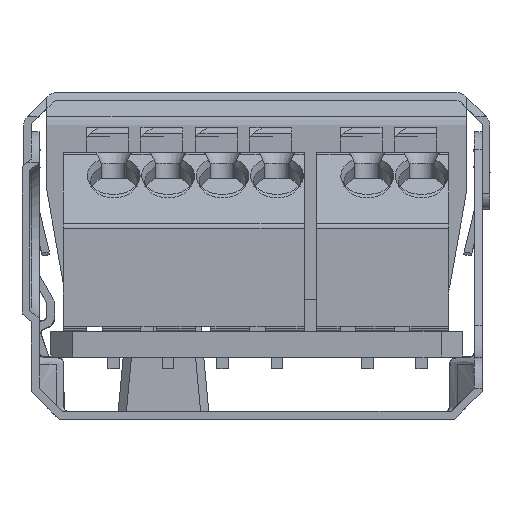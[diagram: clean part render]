
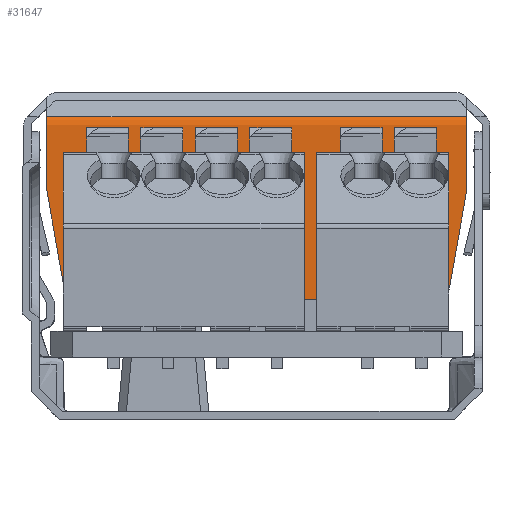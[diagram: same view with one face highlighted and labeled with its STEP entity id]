
A CAD part, left-side view. The second image highlights one B-rep face of the part: STEP entity #31647.
In plain terms, the highlighted free-form (B-spline) face has degree [1, 2] with [2, 5] control points.
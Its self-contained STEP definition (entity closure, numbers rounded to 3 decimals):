
#103 = ORIENTED_EDGE ( 'NONE', *, *, #26508, .T. ) ;
#121 = EDGE_CURVE ( 'NONE', #6695, #3213, #11414, .T. ) ;
#135 = ORIENTED_EDGE ( 'NONE', *, *, #4070, .F. ) ;
#957 = ORIENTED_EDGE ( 'NONE', *, *, #23600, .T. ) ;
#1060 = EDGE_CURVE ( 'NONE', #19073, #6695, #1975, .T. ) ;
#1365 = CARTESIAN_POINT ( 'NONE',  ( -158.504, 15.541, 358.392 ) ) ;
#1975 = CIRCLE ( 'NONE', #8914, 1. ) ;
#1995 = CARTESIAN_POINT ( 'NONE',  ( -158.504, -9.385, 362.98 ) ) ;
#2173 = CARTESIAN_POINT ( 'NONE',  ( -158.504, 17.615, 368.568 ) ) ;
#3213 = VERTEX_POINT ( 'NONE', #34039 ) ;
#3721 = CARTESIAN_POINT ( 'NONE',  ( -158.504, 17.615, 364.392 ) ) ;
#3761 = CARTESIAN_POINT ( 'NONE',  ( -158.504, -9.385, 364.392 ) ) ;
#4070 = EDGE_CURVE ( 'NONE', #29926, #17373, #31348, .T. ) ;
#5095 = ORIENTED_EDGE ( 'NONE', *, *, #15871, .T. ) ;
#5241 = CARTESIAN_POINT ( 'NONE',  ( -158.504, -9.385, 357.392 ) ) ;
#5879 = CARTESIAN_POINT ( 'NONE',  ( -158.504, 16.526, 358.218 ) ) ;
#6695 = VERTEX_POINT ( 'NONE', #20133 ) ;
#7252 = CARTESIAN_POINT ( 'NONE',  ( -158.504, 16.526, 358.218 ) ) ;
#7694 = VECTOR ( 'NONE', #33468, 1000. ) ;
#7796 = CARTESIAN_POINT ( 'NONE',  ( -158.504, -9.385, 368.899 ) ) ;
#8914 = AXIS2_PLACEMENT_3D ( 'NONE', #1365, #12404, #10043 ) ;
#9692 = CARTESIAN_POINT ( 'NONE',  ( -158.504, -7.311, 358.392 ) ) ;
#10043 = DIRECTION ( 'NONE',  ( 0., 0., 1. ) ) ;
#10086 = CARTESIAN_POINT ( 'NONE',  ( -158.504, -9.385, 368.899 ) ) ;
#10495 = FACE_OUTER_BOUND ( 'NONE', #15870, .T. ) ;
#10652 = B_SPLINE_CURVE_WITH_KNOTS ( 'NONE', 3,
 ( #25356, #27381, #19594, #5879 ),
 .UNSPECIFIED., .F., .F.,
 ( 4, 4 ),
 ( 0., 1. ),
 .UNSPECIFIED. ) ;
#10709 = CARTESIAN_POINT ( 'NONE',  ( -158.504, -9.385, 364.392 ) ) ;
#11414 = LINE ( 'NONE', #11588, #7694 ) ;
#11588 = CARTESIAN_POINT ( 'NONE',  ( -158.504, 4.115, 357.392 ) ) ;
#11988 = CARTESIAN_POINT ( 'NONE',  ( -158.269, -9.385, 369.133 ) ) ;
#12404 = DIRECTION ( 'NONE',  ( -1., 0., 0. ) ) ;
#12579 = DIRECTION ( 'NONE',  ( -1., 0., 0. ) ) ;
#12711 = DIRECTION ( 'NONE',  ( 0., -1., 0. ) ) ;
#13750 = CARTESIAN_POINT ( 'NONE',  ( -158.504, -9.022, 362.334 ) ) ;
#15870 = EDGE_LOOP ( 'NONE', ( #34880, #30233, #5095, #135, #17616, #103, #957, #32511 ) ) ;
#15871 = EDGE_CURVE ( 'NONE', #32585, #17373, #26502, .T. ) ;
#15909 = CARTESIAN_POINT ( 'NONE',  ( -158.504, -9.385, 368.568 ) ) ;
#15926 = CARTESIAN_POINT ( 'NONE',  ( -158.504, -8.295, 358.218 ) ) ;
#17373 = VERTEX_POINT ( 'NONE', #17477 ) ;
#17477 = CARTESIAN_POINT ( 'NONE',  ( -158.504, -9.385, 364.392 ) ) ;
#17616 = ORIENTED_EDGE ( 'NONE', *, *, #31199, .F. ) ;
#17833 = AXIS2_PLACEMENT_3D ( 'NONE', #9692, #12579, #20690 ) ;
#18399 = EDGE_CURVE ( 'NONE', #3213, #32585, #31718, .T. ) ;
#18433 = CARTESIAN_POINT ( 'NONE',  ( -158.504, 17.615, 368.899 ) ) ;
#18608 = CARTESIAN_POINT ( 'NONE',  ( -158.504, 17.615, 362.98 ) ) ;
#19073 = VERTEX_POINT ( 'NONE', #7252 ) ;
#19508 = CARTESIAN_POINT ( 'NONE',  ( -158.504, -8.295, 358.218 ) ) ;
#19594 = CARTESIAN_POINT ( 'NONE',  ( -158.504, 16.889, 360.276 ) ) ;
#20133 = CARTESIAN_POINT ( 'NONE',  ( -158.504, 15.541, 357.392 ) ) ;
#20555 = CARTESIAN_POINT ( 'NONE',  ( -158.504, -9.385, 368.568 ) ) ;
#20690 = DIRECTION ( 'NONE',  ( 0., 0., -1. ) ) ;
#21320 = CARTESIAN_POINT ( 'NONE',  ( -158.504, -8.659, 360.276 ) ) ;
#22870 = CARTESIAN_POINT ( 'NONE',  ( -158.504, 17.615, 366.48 ) ) ;
#23600 = EDGE_CURVE ( 'NONE', #26670, #19073, #10652, .T. ) ;
#23611 = CARTESIAN_POINT ( 'NONE',  ( -158.269, -9.385, 369.133 ) ) ;
#23668 = CARTESIAN_POINT ( 'NONE',  ( -158.504, 17.615, 357.392 ) ) ;
#24017 = CARTESIAN_POINT ( 'NONE',  ( -158.269, 17.615, 369.133 ) ) ;
#25356 = CARTESIAN_POINT ( 'NONE',  ( -158.504, 17.615, 364.392 ) ) ;
#25593 =( BOUNDED_CURVE ( )  B_SPLINE_CURVE ( 2, ( #29013, #28476, #31038, #22870, #3721 ),
 .UNSPECIFIED., .F., .T. ) 
 B_SPLINE_CURVE_WITH_KNOTS ( ( 3, 2, 3 ),
 ( 0., 0.001, 0.005 ),
 .UNSPECIFIED. ) 
 CURVE ( )  GEOMETRIC_REPRESENTATION_ITEM ( )  RATIONAL_B_SPLINE_CURVE ( ( 1., 0.924, 1., 1., 1. ) ) 
 REPRESENTATION_ITEM ( '' )  );
#26407 = CARTESIAN_POINT ( 'NONE',  ( -158.269, 17.615, 369.133 ) ) ;
#26502 = B_SPLINE_CURVE_WITH_KNOTS ( 'NONE', 3,
 ( #15926, #21320, #13750, #10709 ),
 .UNSPECIFIED., .F., .F.,
 ( 4, 4 ),
 ( 0., 1. ),
 .UNSPECIFIED. ) ;
#26508 = EDGE_CURVE ( 'NONE', #28191, #26670, #25593, .T. ) ;
#26670 = VERTEX_POINT ( 'NONE', #29727 ) ;
#27381 = CARTESIAN_POINT ( 'NONE',  ( -158.504, 17.252, 362.334 ) ) ;
#27727 =( BOUNDED_SURFACE ( )  B_SPLINE_SURFACE ( 1, 2, ( 
 ( #34900, #7796, #15909, #1995, #5241 ),
 ( #24017, #18433, #2173, #18608, #23668 ) ),
 .UNSPECIFIED., .F., .F., .F. ) 
 B_SPLINE_SURFACE_WITH_KNOTS ( ( 2, 2 ),
 ( 3, 2, 3 ),
 ( 0., 27. ),
 ( -39.683, -39.055, -28.08 ),
 .UNSPECIFIED. ) 
 GEOMETRIC_REPRESENTATION_ITEM ( )  RATIONAL_B_SPLINE_SURFACE ( (
 ( 1., 0.924, 1., 1., 1.),
 ( 1., 0.924, 1., 1., 1.) ) ) 
 REPRESENTATION_ITEM ( '' )  SURFACE ( )  );
#28191 = VERTEX_POINT ( 'NONE', #26407 ) ;
#28440 = CARTESIAN_POINT ( 'NONE',  ( -158.269, 4.115, 369.133 ) ) ;
#28476 = CARTESIAN_POINT ( 'NONE',  ( -158.504, 17.615, 368.899 ) ) ;
#29013 = CARTESIAN_POINT ( 'NONE',  ( -158.269, 17.615, 369.133 ) ) ;
#29727 = CARTESIAN_POINT ( 'NONE',  ( -158.504, 17.615, 364.392 ) ) ;
#29926 = VERTEX_POINT ( 'NONE', #11988 ) ;
#30022 = VECTOR ( 'NONE', #12711, 1000. ) ;
#30233 = ORIENTED_EDGE ( 'NONE', *, *, #18399, .T. ) ;
#31038 = CARTESIAN_POINT ( 'NONE',  ( -158.504, 17.615, 368.568 ) ) ;
#31199 = EDGE_CURVE ( 'NONE', #28191, #29926, #34239, .T. ) ;
#31348 =( BOUNDED_CURVE ( )  B_SPLINE_CURVE ( 2, ( #23611, #10086, #20555, #34664, #3761 ),
 .UNSPECIFIED., .F., .T. ) 
 B_SPLINE_CURVE_WITH_KNOTS ( ( 3, 2, 3 ),
 ( 0., 0.001, 0.005 ),
 .UNSPECIFIED. ) 
 CURVE ( )  GEOMETRIC_REPRESENTATION_ITEM ( )  RATIONAL_B_SPLINE_CURVE ( ( 1., 0.924, 1., 1., 1. ) ) 
 REPRESENTATION_ITEM ( '' )  );
#31647 = ADVANCED_FACE ( 'NONE', ( #10495 ), #27727, .T. ) ;
#31718 = CIRCLE ( 'NONE', #17833, 1. ) ;
#32511 = ORIENTED_EDGE ( 'NONE', *, *, #1060, .T. ) ;
#32585 = VERTEX_POINT ( 'NONE', #19508 ) ;
#33468 = DIRECTION ( 'NONE',  ( 0., -1., 0. ) ) ;
#34039 = CARTESIAN_POINT ( 'NONE',  ( -158.504, -7.311, 357.392 ) ) ;
#34239 = LINE ( 'NONE', #28440, #30022 ) ;
#34664 = CARTESIAN_POINT ( 'NONE',  ( -158.504, -9.385, 366.48 ) ) ;
#34880 = ORIENTED_EDGE ( 'NONE', *, *, #121, .T. ) ;
#34900 = CARTESIAN_POINT ( 'NONE',  ( -158.269, -9.385, 369.133 ) ) ;
